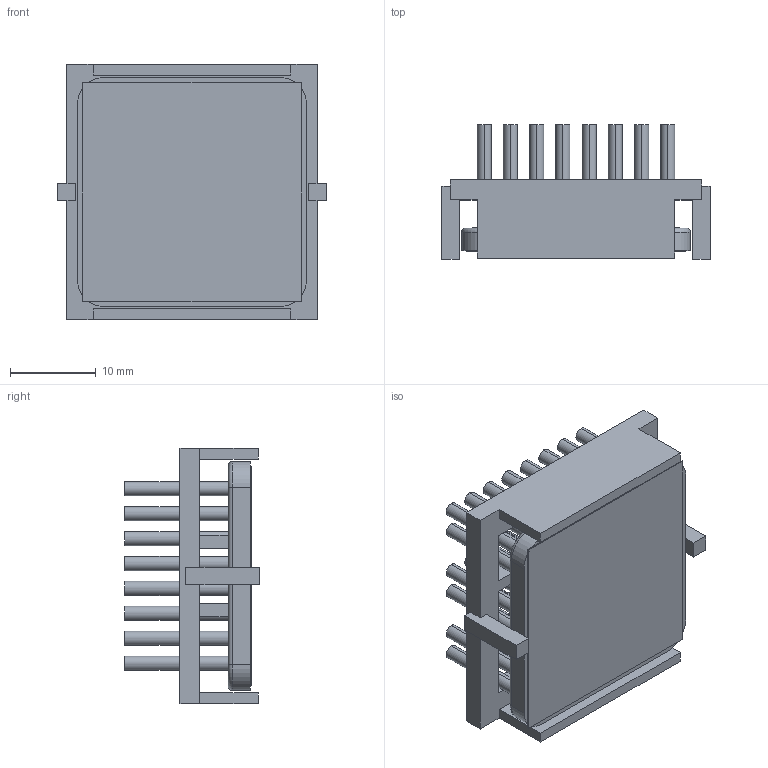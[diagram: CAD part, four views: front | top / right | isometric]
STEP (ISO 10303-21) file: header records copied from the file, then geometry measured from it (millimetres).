
FILE_DESCRIPTION (( 'STEP AP214' ), '1' );
FILE_NAME ('INM27002-15P-2.6O.STEP', '2023-03-02T23:45:36', ( '' ), ( '' ), 'SwSTEP 2.0', 'SolidWorks 2020', '' );
FILE_SCHEMA (( 'AUTOMOTIVE_DESIGN' ));
Length unit declared in the file: inch
Products named in the file (1): INM27002-15P-2.6O
Bounding box: 31.2 x 15.6 x 29.7 mm (x, y, z)
Volume: 4695.4 mm3; surface area: 8645 mm2
Topology: 3 solids, 3 shells, 246 faces, 544 edges, 360 vertices
Faces by surface type: plane 122, cylinder 120, torus 4
Entity records: 10132 total; most frequent: DIRECTION 1282, CARTESIAN_POINT 1151, ORIENTED_EDGE 1088, EDGE_CURVE 544, AXIS2_PLACEMENT_3D 491, VERTEX_POINT 360, EDGE_LOOP 304, LINE 300
